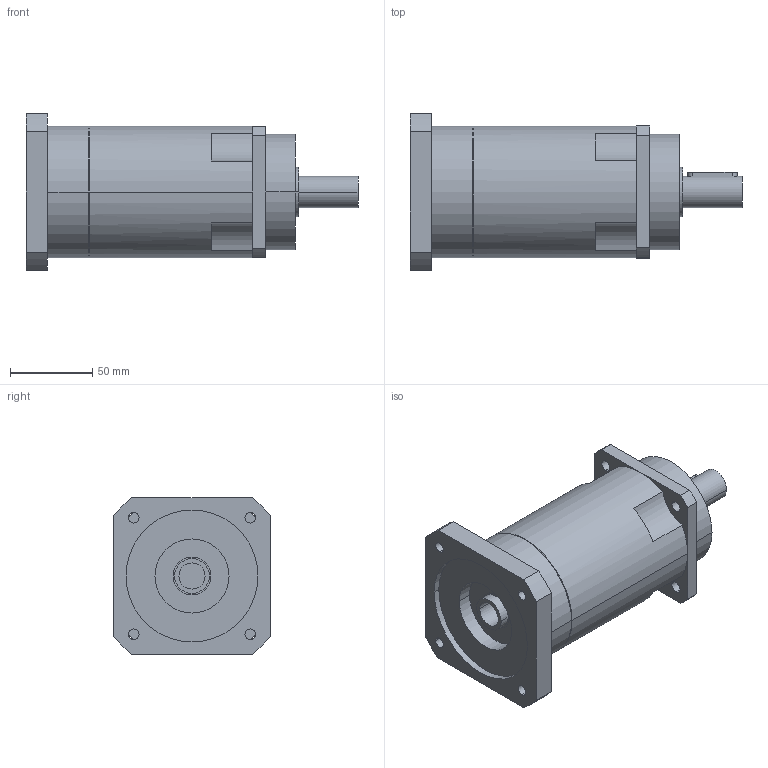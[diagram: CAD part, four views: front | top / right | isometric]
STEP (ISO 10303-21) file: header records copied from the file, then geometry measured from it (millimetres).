
FILE_DESCRIPTION(('CoCreate Modeling STEP Export'),'2;1');
FILE_NAME('GPR100_ig-48-64-80-100-120-144-180-216_19_B5_15.87_P06.stp','2014-08-26T11:55:34',(''),(''),'CoCreate Modeling STEP processor for AP214 (Solid Model)','CoCreate Modeling 16.00C 25-Feb-2009 (C) Parametric Technology GmbH','');
FILE_SCHEMA(('AUTOMOTIVE_DESIGN { 1 0 10303 214 1 1 1 1 }'));
Length unit declared in the file: millimetre
Products named in the file (2): GPR100_ig-48-64-80-100-120-144-180-216_19_B5_15.87_P06
Assembly tree (1 placements, depth 2):
  GPR100_ig-48-64-80-100-120-144-180-216_19_B5_15.87_P06
    GPR100_ig-48-64-80-100-120-144-180-216_19_B5_15.87_P06
Bounding box: 201.4 x 95 x 95 mm (x, y, z)
Volume: 820702.2 mm3; surface area: 71897.8 mm2
Topology: 1 solids, 1 shells, 89 faces, 245 edges, 167 vertices
Faces by surface type: cylinder 52, plane 31, cone 6
Entity records: 2602 total; most frequent: ORIENTED_EDGE 486, CARTESIAN_POINT 472, DIRECTION 386, EDGE_CURVE 243, VERTEX_POINT 167, AXIS2_PLACEMENT_3D 145, EDGE_LOOP 116, VECTOR 96
